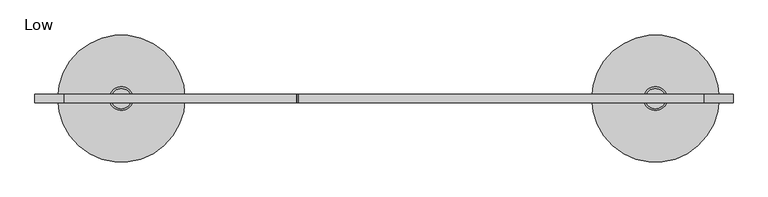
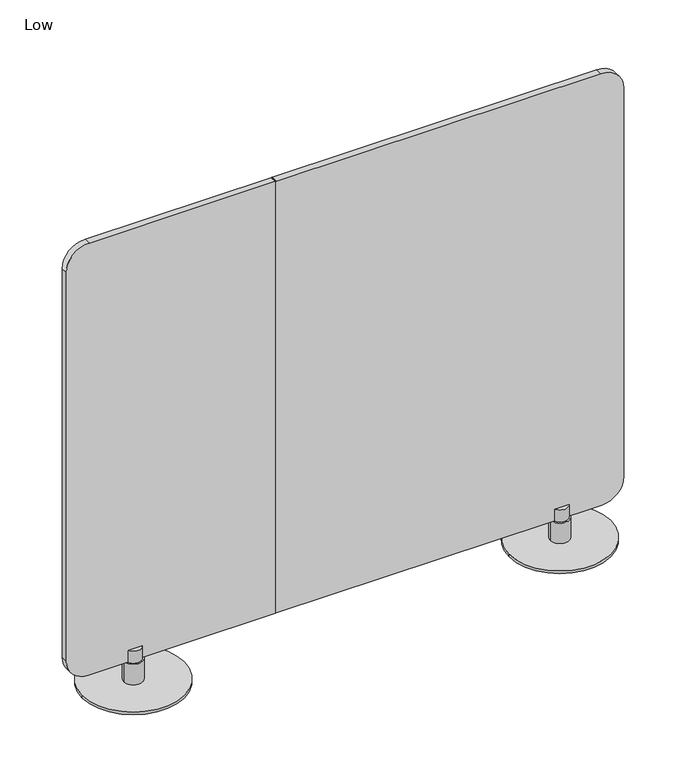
"""IFC4 building model written with IfcOpenShell, lengths in millimetres: furniture geometry, Coalesse_AM_SpaceDivision_Screen_Ensemble_Straight : Low."""

from ifc_helpers import new_model, si_unit, point, frame, frame_2d, origin, origin_with_axes, place, context, project, spatial, polyline, circle_curve, trimmed, segment, composite_curve, outline, extrude, source, transform, mapped, element, save
from ifc_brep_helpers import plane_surface, cylinder_surface, advanced_brep


def low_2566cc5c(model_context):
    return source(origin(), model_context, "Body", "SolidModel", [
        extrude(outline(composite_curve([segment(polyline([(1328.0169044, 1474.4969652), (1328.0169044, 579.7254895)]), True, "CONTINUOUS"), segment(trimmed(circle_curve(frame_2d((1326.2798031, 579.7254895)), 1.7371014), [point((1328.0169044, 579.7254895))], [point((1326.2798031, 577.9883882))], False, "CARTESIAN"), True, "CONTINUOUS"), segment(polyline([(1326.2798031, 577.9883882), (70.7445512, 577.9883882)]), True, "CONTINUOUS"), segment(trimmed(circle_curve(frame_2d((70.7445512, 579.7134195)), 1.7250314), [point((70.7445512, 577.9883882))], [point((69.0195199, 579.7134195))], False, "CARTESIAN"), True, "CONTINUOUS"), segment(polyline([(69.0195199, 579.7134195), (69.0195199, 1476.5689631)]), True, "CONTINUOUS"), segment(trimmed(circle_curve(frame_2d((130.447522, 1476.5689631)), 61.4280021), [point((69.0195199, 1476.5689631))], [point((130.447522, 1537.9969652))], False, "CARTESIAN"), True, "CONTINUOUS"), segment(polyline([(130.447522, 1537.9969652), (1264.5169044, 1537.9969652)]), True, "CONTINUOUS"), segment(trimmed(circle_curve(frame_2d((1264.5169044, 1474.4969652)), 63.5), [point((1264.5169044, 1537.9969652))], [point((1328.0169044, 1474.4969652))], False, "CARTESIAN"), True, "CONTINUOUS")], self_intersect=False)), frame((0.0, -18.9253064, 0.0), z_axis=(0.0, 1.0, 0.0), x_axis=(0.0, 0.0, 1.0)), (0.0, 0.0, 1.0), 18.9253064),
        extrude(outline(composite_curve([segment(trimmed(circle_curve(frame_2d((1264.5169044, 63.5)), 63.5), [point((1328.0169044, 63.5))], [point((1264.5169044, 0.0))], False, "CARTESIAN"), True, "CONTINUOUS"), segment(polyline([(1264.5169044, 0.0), (130.447522, 0.0)]), True, "CONTINUOUS"), segment(trimmed(circle_curve(frame_2d((130.447522, 61.4280021)), 61.4280021), [point((130.447522, 0.0))], [point((69.0195199, 61.4280021))], False, "CARTESIAN"), True, "CONTINUOUS"), segment(polyline([(69.0195199, 61.4280021), (69.0195199, 576.2633568)]), True, "CONTINUOUS"), segment(trimmed(circle_curve(frame_2d((70.7445512, 576.2633568)), 1.7250314), [point((69.0195199, 576.2633568))], [point((70.7445512, 577.9883882))], False, "CARTESIAN"), True, "CONTINUOUS"), segment(polyline([(70.7445512, 577.9883882), (1326.2798031, 577.9883882)]), True, "CONTINUOUS"), segment(trimmed(circle_curve(frame_2d((1326.2798031, 576.2512868)), 1.7371014), [point((1326.2798031, 577.9883882))], [point((1328.0169044, 576.2512868))], False, "CARTESIAN"), True, "CONTINUOUS"), segment(polyline([(1328.0169044, 576.2512868), (1328.0169044, 63.5)]), True, "CONTINUOUS")], self_intersect=False)), frame((0.0, -18.9253064, 0.0), z_axis=(0.0, 1.0, 0.0), x_axis=(0.0, 0.0, 1.0)), (0.0, 0.0, 1.0), 18.9253064),
        advanced_brep(
        [(1340.6543457, -9.525, 7.8711858), (1393.1742514, -9.525, 7.8711858), (1366.9142985, -9.525, 7.8711858), (1340.6543457, -9.525, 67.5072456), (1393.1742514, -9.525, 67.5072456), (1344.735149, -9.525, 67.5072456), (1389.0934481, -9.525, 67.5072456), (1344.735149, -9.525, 102.8741713), (1389.0934481, -9.525, 102.8741713), (1366.9142985, -9.525, 102.8741713)],
        [
            (0, 1, circle_curve(frame((1366.9142985, -9.525, 7.8711858), z_axis=(0.0, 0.0, -1.0), x_axis=(1.0, 0.0, 0.0)), 26.2599528)),
            (1, 2),
            (2, 0),
            (1, 0, circle_curve(frame((1366.9142985, -9.525, 7.8711858), z_axis=(0.0, 0.0, -1.0), x_axis=(1.0, 0.0, 0.0)), 26.2599528)),
            (3, 4, circle_curve(frame((1366.9142985, -9.525, 67.5072456), z_axis=(0.0, 0.0, -1.0), x_axis=(1.0, 0.0, 0.0)), 26.2599528)),
            (4, 1),
            (0, 3),
            (4, 3, circle_curve(frame((1366.9142985, -9.525, 67.5072456), z_axis=(0.0, 0.0, -1.0), x_axis=(1.0, 0.0, 0.0)), 26.2599528)),
            (5, 6, circle_curve(frame((1366.9142985, -9.525, 67.5072456), z_axis=(0.0, 0.0, -1.0), x_axis=(1.0, 0.0, 0.0)), 22.1791496)),
            (6, 4),
            (3, 5),
            (6, 5, circle_curve(frame((1366.9142985, -9.525, 67.5072456), z_axis=(0.0, 0.0, -1.0), x_axis=(1.0, 0.0, 0.0)), 22.1791496)),
            (7, 8, circle_curve(frame((1366.9142985, -9.525, 102.8741713), z_axis=(0.0, 0.0, -1.0), x_axis=(1.0, 0.0, 0.0)), 22.1791496)),
            (8, 6),
            (5, 7),
            (8, 7, circle_curve(frame((1366.9142985, -9.525, 102.8741713), z_axis=(0.0, 0.0, -1.0), x_axis=(1.0, 0.0, 0.0)), 22.1791496)),
            (9, 8),
            (7, 9),
        ],
        [
            plane_surface(frame((1366.9142985, -9.525, 7.8711858), z_axis=(0.0, 0.0, -1.0), x_axis=(1.0, 0.0, 0.0))),
            cylinder_surface(frame((1366.9142985, -9.525, 102.8741713), z_axis=(0.0, 0.0, 1.0), x_axis=(1.0, 0.0, 0.0)), 26.2599528),
            plane_surface(frame((1366.9142985, -9.525, 67.5072456), z_axis=(0.0, 0.0, 1.0), x_axis=(1.0, 0.0, 0.0))),
            cylinder_surface(frame((1366.9142985, -9.525, 102.8741713), z_axis=(0.0, 0.0, 1.0), x_axis=(1.0, 0.0, 0.0)), 22.1791496),
            plane_surface(frame((1366.9142985, -9.525, 102.8741713), z_axis=(0.0, 0.0, 1.0), x_axis=(1.0, 0.0, 0.0))),
        ],
        [
            (0, [[1, 2, 3]]),
            (0, [[4, -3, -2]]),
            (1, [[5, 6, -1, 7]]),
            (1, [[8, -7, -4, -6]]),
            (2, [[9, 10, -5, 11]]),
            (2, [[12, -11, -8, -10]]),
            (3, [[13, 14, -9, 15]]),
            (3, [[16, -15, -12, -14]]),
            (4, [[17, -13, 18]]),
            (4, [[-18, -16, -17]]),
        ],
    ),
        advanced_brep(
        [(164.0941615, -9.525, 7.8711858), (216.6140672, -9.525, 7.8711858), (190.3541143, -9.525, 7.8711858), (164.0941615, -9.525, 67.5072456), (216.6140672, -9.525, 67.5072456), (168.1749648, -9.525, 67.5072456), (212.5332639, -9.525, 67.5072456), (168.1749648, -9.525, 102.8741713), (212.5332639, -9.525, 102.8741713), (190.3541143, -9.525, 102.8741713)],
        [
            (0, 1, circle_curve(frame((190.3541143, -9.525, 7.8711858), z_axis=(0.0, 0.0, -1.0), x_axis=(1.0, 0.0, 0.0)), 26.2599528)),
            (1, 2),
            (2, 0),
            (1, 0, circle_curve(frame((190.3541143, -9.525, 7.8711858), z_axis=(0.0, 0.0, -1.0), x_axis=(1.0, 0.0, 0.0)), 26.2599528)),
            (3, 4, circle_curve(frame((190.3541143, -9.525, 67.5072456), z_axis=(0.0, 0.0, -1.0), x_axis=(1.0, 0.0, 0.0)), 26.2599528)),
            (4, 1),
            (0, 3),
            (4, 3, circle_curve(frame((190.3541143, -9.525, 67.5072456), z_axis=(0.0, 0.0, -1.0), x_axis=(1.0, 0.0, 0.0)), 26.2599528)),
            (5, 6, circle_curve(frame((190.3541143, -9.525, 67.5072456), z_axis=(0.0, 0.0, -1.0), x_axis=(1.0, 0.0, 0.0)), 22.1791496)),
            (6, 4),
            (3, 5),
            (6, 5, circle_curve(frame((190.3541143, -9.525, 67.5072456), z_axis=(0.0, 0.0, -1.0), x_axis=(1.0, 0.0, 0.0)), 22.1791496)),
            (7, 8, circle_curve(frame((190.3541143, -9.525, 102.8741713), z_axis=(0.0, 0.0, -1.0), x_axis=(1.0, 0.0, 0.0)), 22.1791496)),
            (8, 6),
            (5, 7),
            (8, 7, circle_curve(frame((190.3541143, -9.525, 102.8741713), z_axis=(0.0, 0.0, -1.0), x_axis=(1.0, 0.0, 0.0)), 22.1791496)),
            (9, 8),
            (7, 9),
        ],
        [
            plane_surface(frame((190.3541143, -9.525, 7.8711858), z_axis=(0.0, 0.0, -1.0), x_axis=(1.0, 0.0, 0.0))),
            cylinder_surface(frame((190.3541143, -9.525, 102.8741713), z_axis=(0.0, 0.0, 1.0), x_axis=(1.0, 0.0, 0.0)), 26.2599528),
            plane_surface(frame((190.3541143, -9.525, 67.5072456), z_axis=(0.0, 0.0, 1.0), x_axis=(1.0, 0.0, 0.0))),
            cylinder_surface(frame((190.3541143, -9.525, 102.8741713), z_axis=(0.0, 0.0, 1.0), x_axis=(1.0, 0.0, 0.0)), 22.1791496),
            plane_surface(frame((190.3541143, -9.525, 102.8741713), z_axis=(0.0, 0.0, 1.0), x_axis=(1.0, 0.0, 0.0))),
        ],
        [
            (0, [[1, 2, 3]]),
            (0, [[4, -3, -2]]),
            (1, [[5, 6, -1, 7]]),
            (1, [[8, -7, -4, -6]]),
            (2, [[9, 10, -5, 11]]),
            (2, [[12, -11, -8, -10]]),
            (3, [[13, 14, -9, 15]]),
            (3, [[16, -15, -12, -14]]),
            (4, [[17, -13, 18]]),
            (4, [[-18, -16, -17]]),
        ],
    ),
        extrude(outline(composite_curve([segment(trimmed(circle_curve(frame_2d((190.3541148, -9.4631709)), 140.0478322), [point((50.3062826, -9.4631709))], [point((330.4019471, -9.4631709))], False, "CARTESIAN"), True, "CONTINUOUS"), segment(trimmed(circle_curve(frame_2d((190.3541148, -9.4631709)), 140.0478322), [point((330.4019471, -9.4631709))], [point((50.3062826, -9.4631709))], False, "CARTESIAN"), True, "CONTINUOUS")], self_intersect=False)), origin_with_axes(), (0.0, 0.0, 1.0), 7.8711858),
        extrude(outline(composite_curve([segment(trimmed(circle_curve(frame_2d((1366.9142966, -9.4631709)), 140.0478322), [point((1226.8664643, -9.4631709))], [point((1506.9621288, -9.4631709))], False, "CARTESIAN"), True, "CONTINUOUS"), segment(trimmed(circle_curve(frame_2d((1366.9142966, -9.4631709)), 140.0478322), [point((1506.9621288, -9.4631709))], [point((1226.8664643, -9.4631709))], False, "CARTESIAN"), True, "CONTINUOUS")], self_intersect=False)), origin_with_axes(), (0.0, 0.0, 1.0), 7.8711858),
    ])


if __name__ == "__main__":
    model = new_model("IFC4")
    model_context = context("Model", 3, world=origin())
    ifc_project = project(units=[si_unit("LENGTHUNIT", "METRE", prefix="MILLI")], contexts=[model_context])
    site = spatial("IfcSite", under=ifc_project)
    building = spatial("IfcBuilding", under=site)
    placement = place(None, origin())
    low_shape = low_2566cc5c(model_context)
    element("IfcFurniture", 1, ObjectType="Coalesse_AM_SpaceDivision_Screen_Ensemble_Straight : Low", at=placement, inside=building, context=model_context, shape_type="MappedRepresentation", body=[
        mapped(low_shape, transform((0.0, 0.0, 0.0), x_axis=(1.0, 0.0, 0.0), y_axis=(0.0, 1.0, 0.0), z_axis=(0.0, 0.0, 1.0))),
    ])
    save(model, "model.ifc")
